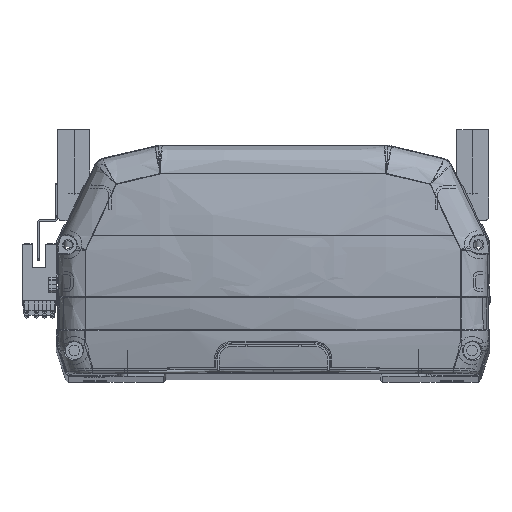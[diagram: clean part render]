
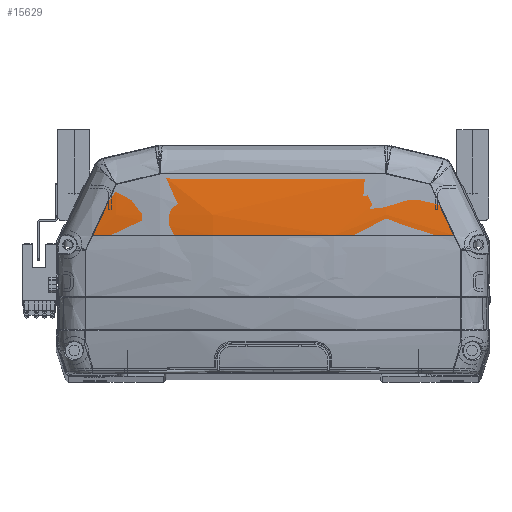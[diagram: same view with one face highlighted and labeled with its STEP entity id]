
A CAD part, top view. The second image highlights one B-rep face of the part: STEP entity #15629.
In plain terms, the highlighted toroidal (fillet/blend) face has major radius 312.5 mm and minor radius 572.4 mm.
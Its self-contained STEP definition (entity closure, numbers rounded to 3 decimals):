
#713 = CARTESIAN_POINT ( 'NONE',  ( -44.331, 79.443, -2.97 ) ) ;
#769 = CARTESIAN_POINT ( 'NONE',  ( 0., 55.096, -572.5 ) ) ;
#986 = AXIS2_PLACEMENT_3D ( 'NONE', #769, #40088, #10459 ) ;
#1819 = CARTESIAN_POINT ( 'NONE',  ( -61.718, 75.278, -4.232 ) ) ;
#2179 = CARTESIAN_POINT ( 'NONE',  ( -50.132, 78.049, -3.29 ) ) ;
#3126 = CARTESIAN_POINT ( 'NONE',  ( -29.579, 79.39, -1.814 ) ) ;
#3186 = EDGE_CURVE ( 'NONE', #16100, #22597, #20079, .T. ) ;
#3371 = FACE_OUTER_BOUND ( 'NONE', #8748, .T. ) ;
#3619 = ORIENTED_EDGE ( 'NONE', *, *, #35335, .T. ) ;
#4237 = ORIENTED_EDGE ( 'NONE', *, *, #20392, .F. ) ;
#4297 = B_SPLINE_CURVE_WITH_KNOTS ( 'NONE', 3,
 ( #37201, #30490, #36777, #26956 ),
 .UNSPECIFIED., .F., .F.,
 ( 4, 4 ),
 ( 0., 0.022 ),
 .UNSPECIFIED. ) ;
#4734 = VERTEX_POINT ( 'NONE', #1819 ) ;
#6373 = CARTESIAN_POINT ( 'NONE',  ( 44.331, 79.443, -2.97 ) ) ;
#6971 = B_SPLINE_CURVE_WITH_KNOTS ( 'NONE', 3,
 ( #37796, #28387, #2179, #24962 ),
 .UNSPECIFIED., .F., .F.,
 ( 4, 4 ),
 ( 0., 0.018 ),
 .UNSPECIFIED. ) ;
#7454 = TOROIDAL_SURFACE ( 'NONE', #25142, -312.5, 572.4 ) ;
#8748 = EDGE_LOOP ( 'NONE', ( #18303, #3619, #32047, #4237, #9261, #22872 ) ) ;
#9190 = CARTESIAN_POINT ( 'NONE',  ( -61.718, 75.278, -4.232 ) ) ;
#9261 = ORIENTED_EDGE ( 'NONE', *, *, #3186, .F. ) ;
#9291 = DIRECTION ( 'NONE',  ( 0., 0., -1. ) ) ;
#9841 = CARTESIAN_POINT ( 'NONE',  ( -14.788, 79.361, -1.235 ) ) ;
#10459 = DIRECTION ( 'NONE',  ( 0., 0., 1. ) ) ;
#11722 = VERTEX_POINT ( 'NONE', #26757 ) ;
#11816 = CARTESIAN_POINT ( 'NONE',  ( 50.132, 78.049, -3.29 ) ) ;
#12151 = CARTESIAN_POINT ( 'NONE',  ( 0., 55.096, -260. ) ) ;
#12685 = VERTEX_POINT ( 'NONE', #36357 ) ;
#12954 = B_SPLINE_CURVE_WITH_KNOTS ( 'NONE', 3,
 ( #41862, #38661, #18874, #41439, #25685, #9190 ),
 .UNSPECIFIED., .F., .F.,
 ( 4, 2, 4 ),
 ( 0.006, 0.017, 0.029 ),
 .UNSPECIFIED. ) ;
#13105 = CARTESIAN_POINT ( 'NONE',  ( 29.579, 79.389, -1.814 ) ) ;
#14683 = B_SPLINE_CURVE_WITH_KNOTS ( 'NONE', 3,
 ( #24915, #11816, #18369, #24622 ),
 .UNSPECIFIED., .F., .F.,
 ( 4, 4 ),
 ( 0., 0.018 ),
 .UNSPECIFIED. ) ;
#15629 = ADVANCED_FACE ( 'NONE', ( #3371 ), #7454, .T. ) ;
#16100 = VERTEX_POINT ( 'NONE', #713 ) ;
#16224 = CARTESIAN_POINT ( 'NONE',  ( -44.331, 79.443, -2.97 ) ) ;
#18303 = ORIENTED_EDGE ( 'NONE', *, *, #37132, .F. ) ;
#18369 = CARTESIAN_POINT ( 'NONE',  ( 55.929, 76.66, -3.711 ) ) ;
#18698 = DIRECTION ( 'NONE',  ( 1., 0., 0. ) ) ;
#18874 = CARTESIAN_POINT ( 'NONE',  ( -67.917, 61.816, -4.208 ) ) ;
#20079 = B_SPLINE_CURVE_WITH_KNOTS ( 'NONE', 3,
 ( #16224, #3126, #9841, #39027, #13105, #29454 ),
 .UNSPECIFIED., .F., .F.,
 ( 4, 2, 4 ),
 ( 0., 0.044, 0.089 ),
 .UNSPECIFIED. ) ;
#20392 = EDGE_CURVE ( 'NONE', #22597, #25967, #14683, .T. ) ;
#21480 = EDGE_CURVE ( 'NONE', #25967, #11722, #4297, .T. ) ;
#22597 = VERTEX_POINT ( 'NONE', #6373 ) ;
#22872 = ORIENTED_EDGE ( 'NONE', *, *, #36012, .F. ) ;
#24622 = CARTESIAN_POINT ( 'NONE',  ( 61.718, 75.278, -4.232 ) ) ;
#24915 = CARTESIAN_POINT ( 'NONE',  ( 44.331, 79.443, -2.97 ) ) ;
#24962 = CARTESIAN_POINT ( 'NONE',  ( -44.331, 79.443, -2.97 ) ) ;
#25142 = AXIS2_PLACEMENT_3D ( 'NONE', #12151, #18698, #9291 ) ;
#25685 = CARTESIAN_POINT ( 'NONE',  ( -63.264, 71.911, -4.135 ) ) ;
#25967 = VERTEX_POINT ( 'NONE', #35395 ) ;
#26757 = CARTESIAN_POINT ( 'NONE',  ( 71.027, 55.096, -4.524 ) ) ;
#26956 = CARTESIAN_POINT ( 'NONE',  ( 71.027, 55.096, -4.524 ) ) ;
#28387 = CARTESIAN_POINT ( 'NONE',  ( -55.929, 76.661, -3.711 ) ) ;
#29454 = CARTESIAN_POINT ( 'NONE',  ( 44.331, 79.443, -2.97 ) ) ;
#30490 = CARTESIAN_POINT ( 'NONE',  ( 64.811, 68.545, -4.037 ) ) ;
#32047 = ORIENTED_EDGE ( 'NONE', *, *, #21480, .F. ) ;
#32839 = CIRCLE ( 'NONE', #986, 572.4 ) ;
#35335 = EDGE_CURVE ( 'NONE', #12685, #11722, #32839, .T. ) ;
#35395 = CARTESIAN_POINT ( 'NONE',  ( 61.718, 75.278, -4.232 ) ) ;
#36012 = EDGE_CURVE ( 'NONE', #4734, #16100, #6971, .T. ) ;
#36357 = CARTESIAN_POINT ( 'NONE',  ( -71.027, 55.096, -4.524 ) ) ;
#36777 = CARTESIAN_POINT ( 'NONE',  ( 67.917, 61.809, -4.135 ) ) ;
#37132 = EDGE_CURVE ( 'NONE', #12685, #4734, #12954, .T. ) ;
#37201 = CARTESIAN_POINT ( 'NONE',  ( 61.718, 75.278, -4.232 ) ) ;
#37796 = CARTESIAN_POINT ( 'NONE',  ( -61.718, 75.278, -4.232 ) ) ;
#38661 = CARTESIAN_POINT ( 'NONE',  ( -69.472, 58.454, -4.329 ) ) ;
#39027 = CARTESIAN_POINT ( 'NONE',  ( 14.805, 79.361, -1.235 ) ) ;
#40088 = DIRECTION ( 'NONE',  ( 0., 1., 0. ) ) ;
#41439 = CARTESIAN_POINT ( 'NONE',  ( -64.813, 68.545, -4.11 ) ) ;
#41862 = CARTESIAN_POINT ( 'NONE',  ( -71.027, 55.096, -4.524 ) ) ;
